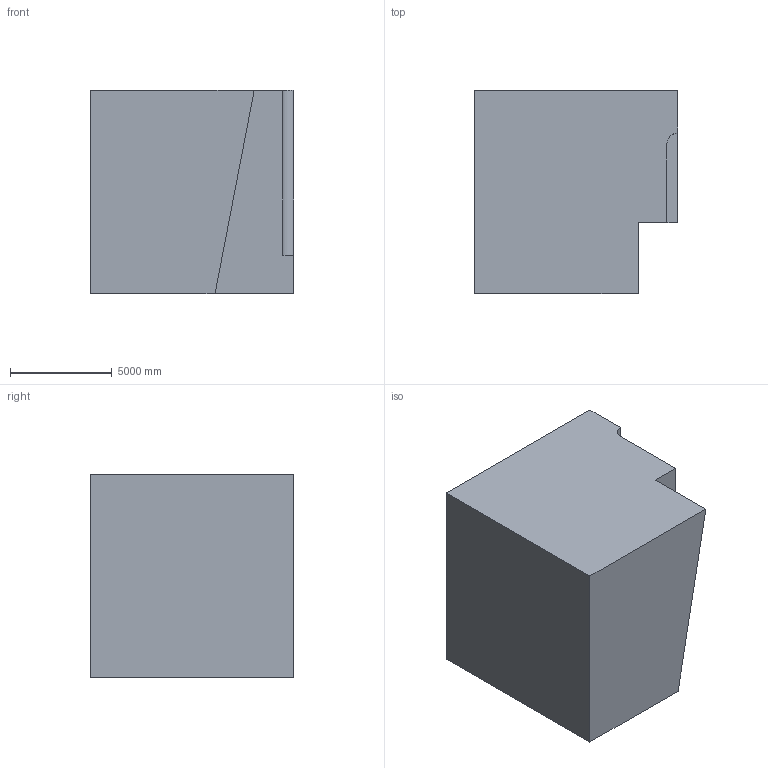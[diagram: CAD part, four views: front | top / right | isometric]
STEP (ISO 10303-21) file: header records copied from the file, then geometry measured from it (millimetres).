
FILE_DESCRIPTION (( 'STEP AP203' ), '1' );
FILE_NAME ('141.STEP', '2022-07-28T13:43:17', ( 'user' ), ( '' ), 'SwSTEP 2.0', 'SolidWorks 2021', '' );
FILE_SCHEMA (( 'CONFIG_CONTROL_DESIGN' ));
Length unit declared in the file: centimetre
Products named in the file (1): 141
Bounding box: 10000 x 10000 x 10000 mm (x, y, z)
Volume: 879888179364.3 mm3; surface area: 578455816.7 mm2
Topology: 1 solids, 1 shells, 11 faces, 27 edges, 18 vertices
Faces by surface type: plane 10, cylinder 1
Entity records: 400 total; most frequent: CARTESIAN_POINT 57, ORIENTED_EDGE 54, DIRECTION 53, EDGE_CURVE 27, LINE 25, VECTOR 25, VERTEX_POINT 18, AXIS2_PLACEMENT_3D 14
